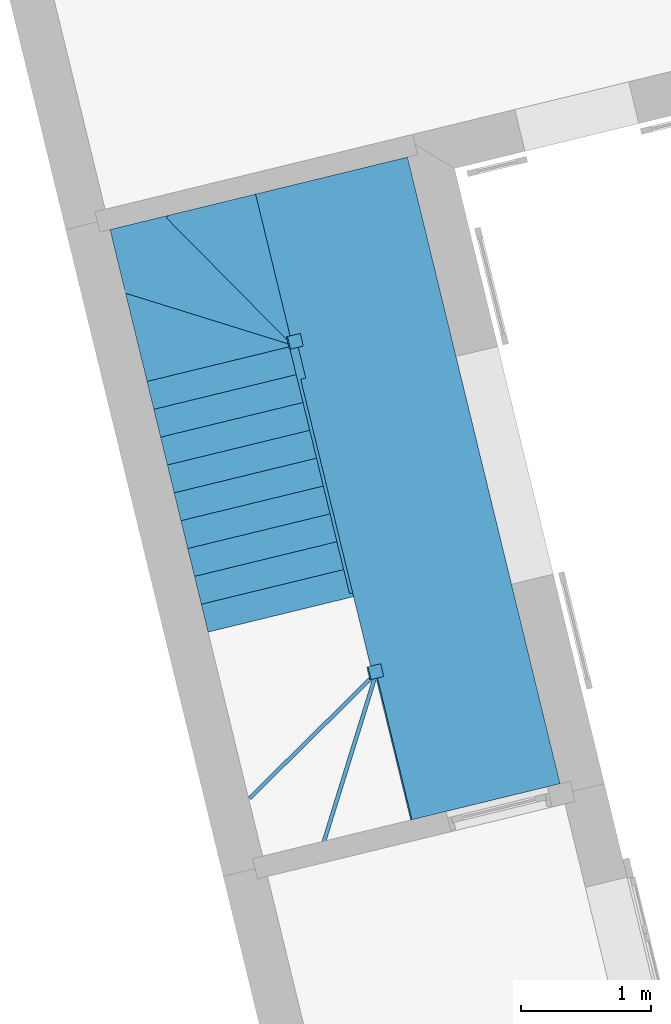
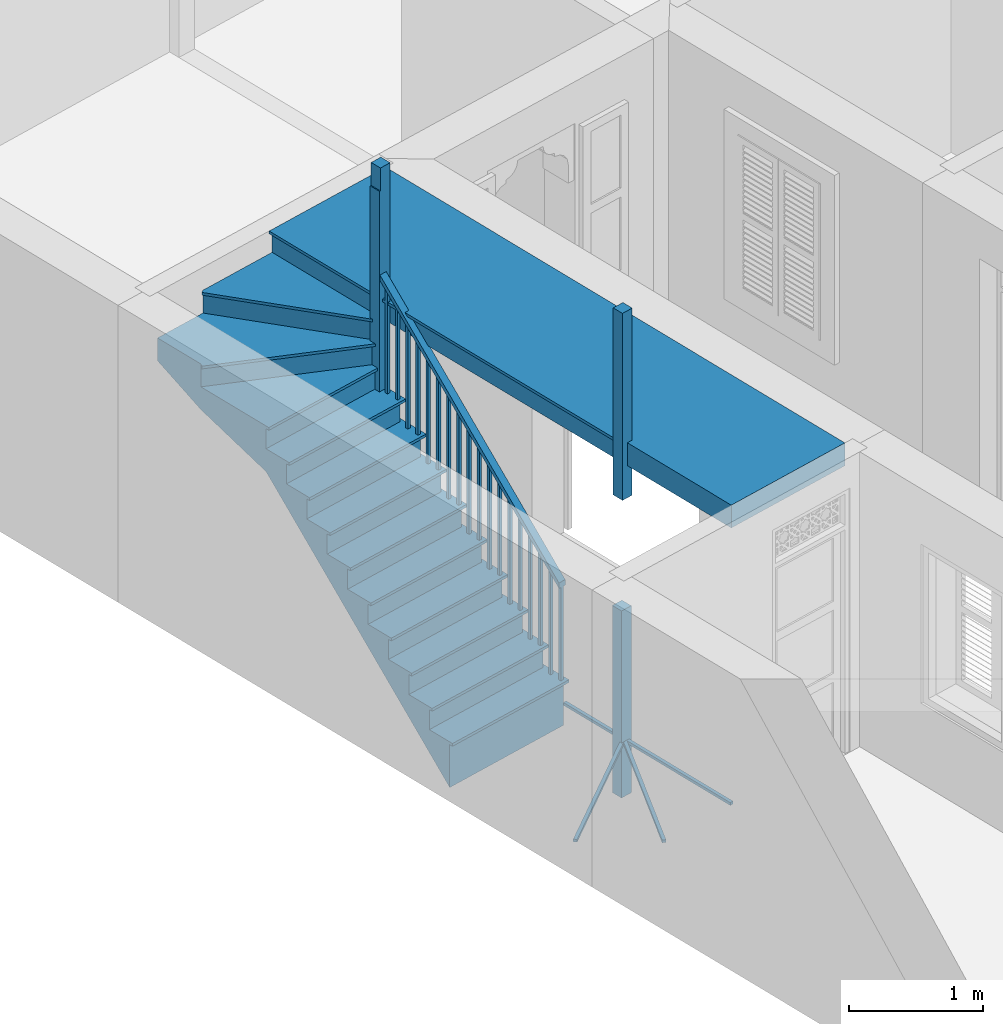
# One storey, part 15 of 15: 1 stair.
"""IFC4 building model written with IfcOpenShell, lengths in metres."""

from ifc_helpers import new_model, si_unit, origin, origin_with_axes, place, context, subcontext, project, spatial, faceted_brep, element, save


model = new_model("IFC4")

# Units and contexts
model_context = context("Model", 3, world=origin_with_axes())
body_context = subcontext(model_context, "Body", "Model", "MODEL_VIEW")
ifc_project = project(units=[si_unit("PLANEANGLEUNIT", "RADIAN"), si_unit("MASSUNIT", "GRAM", prefix="KILO"), si_unit("FORCEUNIT", "NEWTON", prefix="KILO"), si_unit("LENGTHUNIT", "METRE"), si_unit("AREAUNIT", "SQUARE_METRE"), si_unit("VOLUMEUNIT", "CUBIC_METRE")], contexts=[model_context, model_context])

# Site, building, storey
site_placement = place(None, origin_with_axes())
site = spatial("IfcSite", under=ifc_project, at=site_placement, Name="Site plot-4", CompositionType="ELEMENT")
building_placement = place(None, origin_with_axes())
building = spatial("IfcBuilding", under=site, at=building_placement, Name="Building plot-4", CompositionType="ELEMENT")
storey_placement = place(None, origin_with_axes())
storey = spatial("IfcBuildingStorey", under=building, at=storey_placement, Name="plot-4 0", CompositionType="ELEMENT", Elevation=0.0)

# Stair
stair_placement = place(None, origin())
element("IfcStair", 1, at=stair_placement, inside=storey, Name="Stair", PredefinedType="NOTDEFINED", context=body_context, shape_type="Brep", body=[
    faceted_brep([(20.045713, 13.514813, 2.492308), (19.768881, 14.651591, 2.492308), (19.759147, 14.649221, 2.492308), (20.035979, 13.512443, 2.492308), (20.035979, 13.512443, 2.284615), (19.759147, 14.649221, 2.284615), (19.768881, 14.651591, 2.284615), (20.045713, 13.514813, 2.284615)], [[[0, 1, 2, 3]], [[4, 5, 6, 7]], [[7, 6, 1, 0]], [[6, 5, 2, 1]], [[5, 4, 3, 2]], [[4, 7, 0, 3]]]),
    faceted_brep([(20.043077, 13.483295, 2.467308), (20.043077, 13.483295, 2.492308), (20.035979, 13.512443, 2.467308), (20.052811, 13.485665, 2.492308), (20.052811, 13.485665, 2.467308), (20.045713, 13.514813, 2.467308), (20.035979, 13.512443, 2.492308), (20.045713, 13.514813, 2.492308)], [[[0, 1, 2]], [[3, 4, 5]], [[2, 1, 6]], [[3, 5, 7]], [[6, 1, 3, 7]], [[2, 6, 7, 5]], [[0, 2, 5, 4]], [[1, 0, 4, 3]]]),
    faceted_brep([(19.999229, 13.452032, 3.692308), (20.096389, 13.475693, 3.692308), (20.072729, 13.572853, 3.692308), (19.975568, 13.549193, 3.692308), (19.975568, 13.549193, 2.492308), (20.072729, 13.572853, 2.492308), (20.096389, 13.475693, 2.492308), (19.999229, 13.452032, 2.492308)], [[[0, 1, 2, 3]], [[4, 5, 6, 7]], [[7, 6, 1, 0]], [[6, 5, 2, 1]], [[5, 4, 3, 2]], [[4, 7, 0, 3]]]),
    faceted_brep([(19.759147, 14.649221, 2.492308), (19.07708, 14.483122, 2.492308), (20.035979, 13.512443, 2.492308), (20.035979, 13.512443, 2.076923), (19.07708, 14.483122, 2.076923), (19.759147, 14.649221, 2.284615)], [[[0, 1, 2]], [[3, 4, 5]], [[0, 5, 4, 1]], [[4, 3, 2, 1]], [[2, 3, 5, 0]]]),
    faceted_brep([(19.055738, 14.462038, 2.467308), (19.055738, 14.462038, 2.492308), (19.07708, 14.483122, 2.467308), (20.014636, 13.491359, 2.492308), (20.014636, 13.491359, 2.467308), (20.035979, 13.512443, 2.467308), (19.07708, 14.483122, 2.492308), (20.035979, 13.512443, 2.492308)], [[[0, 1, 2]], [[3, 4, 5]], [[2, 1, 6]], [[3, 5, 7]], [[6, 1, 3, 7]], [[2, 6, 7, 5]], [[0, 2, 5, 4]], [[1, 0, 4, 3]]]),
    faceted_brep([(19.07708, 14.483122, 2.284615), (18.622369, 14.372389, 2.284615), (18.733102, 13.917678, 2.284615), (20.035979, 13.512443, 2.284615), (20.035979, 13.512443, 1.869231), (18.733102, 13.917678, 1.869231), (18.622369, 14.372389, 2.076923), (19.07708, 14.483122, 2.076923)], [[[0, 1, 2, 3]], [[4, 5, 6, 7]], [[7, 6, 1, 0]], [[1, 6, 5, 2]], [[5, 4, 3, 2]], [[3, 4, 7, 0]]]),
    faceted_brep([(18.733102, 13.917678, 2.259615), (18.724192, 13.889031, 2.259615), (18.733102, 13.917678, 2.284615), (20.027069, 13.483796, 2.259615), (20.035979, 13.512443, 2.259615), (20.035979, 13.512443, 2.284615), (18.724192, 13.889031, 2.284615), (20.027069, 13.483796, 2.284615)], [[[0, 1, 2]], [[3, 4, 5]], [[1, 6, 2]], [[7, 3, 5]], [[2, 6, 7, 5]], [[0, 2, 5, 4]], [[1, 0, 4, 3]], [[6, 1, 3, 7]]]),
    faceted_brep([(18.733102, 13.917678, 2.076923), (18.899201, 13.235611, 2.076923), (20.035979, 13.512443, 2.076923), (20.035979, 13.512443, 1.661538), (18.899201, 13.235611, 1.661538), (18.733102, 13.917678, 1.869231)], [[[0, 1, 2]], [[3, 4, 5]], [[0, 5, 4, 1]], [[4, 3, 2, 1]], [[2, 3, 5, 0]]]),
    faceted_brep([(18.899201, 13.235611, 2.051923), (18.906299, 13.206463, 2.051923), (18.899201, 13.235611, 2.076923), (20.043077, 13.483295, 2.051923), (20.035979, 13.512443, 2.051923), (20.035979, 13.512443, 2.076923), (18.906299, 13.206463, 2.076923), (20.043077, 13.483295, 2.076923)], [[[0, 1, 2]], [[3, 4, 5]], [[1, 6, 2]], [[7, 3, 5]], [[2, 6, 7, 5]], [[0, 2, 5, 4]], [[1, 0, 4, 3]], [[6, 1, 3, 7]]]),
    faceted_brep([(19.999229, 13.452032, 2.492308), (20.096389, 13.475693, 2.492308), (20.072729, 13.572853, 2.492308), (19.975568, 13.549193, 2.492308), (19.975568, 13.549193, 1.576923), (20.072729, 13.572853, 1.576923), (20.096389, 13.475693, 1.576923), (19.999229, 13.452032, 1.576923)], [[[0, 1, 2, 3]], [[4, 5, 6, 7]], [[7, 6, 1, 0]], [[6, 5, 2, 1]], [[5, 4, 3, 2]], [[4, 7, 0, 3]]]),
    faceted_brep([(20.035979, 13.512443, 1.869231), (18.899201, 13.235611, 1.869231), (18.951255, 13.021858, 1.869231), (20.088033, 13.29869, 1.869231), (20.088033, 13.29869, 1.453846), (18.951255, 13.021858, 1.453846), (18.899201, 13.235611, 1.661538), (20.035979, 13.512443, 1.661538)], [[[0, 1, 2, 3]], [[4, 5, 6, 7]], [[7, 6, 1, 0]], [[1, 6, 5, 2]], [[5, 4, 3, 2]], [[3, 4, 7, 0]]]),
    faceted_brep([(18.951255, 13.021858, 1.844231), (18.958353, 12.99271, 1.844231), (18.951255, 13.021858, 1.869231), (18.892103, 13.264759, 1.844231), (18.899201, 13.235611, 1.844231), (18.899201, 13.235611, 1.869231), (18.958353, 12.99271, 1.869231), (18.892103, 13.264759, 1.869231), (20.124279, 13.27664, 1.869231), (20.088033, 13.29869, 1.869231), (20.088033, 13.29869, 1.844231), (20.124279, 13.27664, 1.844231), (20.058029, 13.548689, 1.869231), (20.035979, 13.512443, 1.869231), (20.035979, 13.512443, 1.844231), (20.058029, 13.548689, 1.844231)], [[[0, 1, 2]], [[3, 4, 5]], [[1, 6, 2]], [[7, 3, 5]], [[2, 6, 8, 9]], [[0, 2, 9, 10]], [[1, 0, 10, 11]], [[6, 1, 11, 8]], [[9, 8, 12, 13]], [[10, 9, 13, 14]], [[11, 10, 14, 15]], [[8, 11, 15, 12]], [[13, 12, 7, 5]], [[14, 13, 5, 4]], [[15, 14, 4, 3]], [[12, 15, 3, 7]]]),
    faceted_brep([(20.088033, 13.29869, 2.769231), (20.082117, 13.32298, 2.769231), (20.057827, 13.317065, 2.769231), (20.063742, 13.292774, 2.769231), (20.063742, 13.292774, 1.869231), (20.057827, 13.317065, 1.869231), (20.082117, 13.32298, 1.869231), (20.088033, 13.29869, 1.869231)], [[[0, 1, 2, 3]], [[4, 5, 6, 7]], [[7, 6, 1, 0]], [[6, 5, 2, 1]], [[5, 4, 3, 2]], [[4, 7, 0, 3]]]),
    faceted_brep([(20.062006, 13.405566, 2.873077), (20.05609, 13.429856, 2.873077), (20.0318, 13.423941, 2.873077), (20.037716, 13.399651, 2.873077), (20.037716, 13.399651, 1.869231), (20.0318, 13.423941, 1.869231), (20.05609, 13.429856, 1.869231), (20.062006, 13.405566, 1.869231)], [[[0, 1, 2, 3]], [[4, 5, 6, 7]], [[7, 6, 1, 0]], [[6, 5, 2, 1]], [[5, 4, 3, 2]], [[4, 7, 0, 3]]]),
    faceted_brep([(20.04431, 13.288042, 2.719231), (20.107465, 13.303422, 2.719231), (20.107465, 13.303422, 2.769231), (20.04431, 13.288042, 2.769231), (20.055411, 13.517175, 2.926923), (19.992257, 13.501795, 2.926923), (19.992257, 13.501795, 2.976923), (20.055411, 13.517175, 2.976923)], [[[0, 1, 2, 3]], [[4, 5, 6, 7]], [[0, 5, 4, 1]], [[3, 2, 7, 6]], [[0, 3, 6, 5]], [[2, 1, 4, 7]]]),
    faceted_brep([(20.088033, 13.29869, 1.661538), (18.951255, 13.021858, 1.661538), (19.003308, 12.808105, 1.661538), (20.140086, 13.084936, 1.661538), (20.140086, 13.084936, 1.246154), (19.003308, 12.808105, 1.246154), (18.951255, 13.021858, 1.453846), (20.088033, 13.29869, 1.453846)], [[[0, 1, 2, 3]], [[4, 5, 6, 7]], [[7, 6, 1, 0]], [[1, 6, 5, 2]], [[5, 4, 3, 2]], [[3, 4, 7, 0]]]),
    faceted_brep([(19.003308, 12.808105, 1.636538), (19.010407, 12.778957, 1.636538), (19.003308, 12.808105, 1.661538), (18.944156, 13.051006, 1.636538), (18.951255, 13.021858, 1.636538), (18.951255, 13.021858, 1.661538), (19.010407, 12.778957, 1.661538), (18.944156, 13.051006, 1.661538), (20.176333, 13.062887, 1.661538), (20.140086, 13.084936, 1.661538), (20.140086, 13.084936, 1.636538), (20.176333, 13.062887, 1.636538), (20.110083, 13.334936, 1.661538), (20.088033, 13.29869, 1.661538), (20.088033, 13.29869, 1.636538), (20.110083, 13.334936, 1.636538)], [[[0, 1, 2]], [[3, 4, 5]], [[1, 6, 2]], [[7, 3, 5]], [[2, 6, 8, 9]], [[0, 2, 9, 10]], [[1, 0, 10, 11]], [[6, 1, 11, 8]], [[9, 8, 12, 13]], [[10, 9, 13, 14]], [[11, 10, 14, 15]], [[8, 11, 15, 12]], [[13, 12, 7, 5]], [[14, 13, 5, 4]], [[15, 14, 4, 3]], [[12, 15, 3, 7]]]),
    faceted_brep([(20.140086, 13.084936, 2.561538), (20.134171, 13.109227, 2.561538), (20.109881, 13.103311, 2.561538), (20.115796, 13.079021, 2.561538), (20.115796, 13.079021, 1.661538), (20.109881, 13.103311, 1.661538), (20.134171, 13.109227, 1.661538), (20.140086, 13.084936, 1.661538)], [[[0, 1, 2, 3]], [[4, 5, 6, 7]], [[7, 6, 1, 0]], [[6, 5, 2, 1]], [[5, 4, 3, 2]], [[4, 7, 0, 3]]]),
    faceted_brep([(20.11406, 13.191813, 2.665385), (20.108144, 13.216103, 2.665385), (20.083854, 13.210188, 2.665385), (20.089769, 13.185898, 2.665385), (20.089769, 13.185898, 1.661538), (20.083854, 13.210188, 1.661538), (20.108144, 13.216103, 1.661538), (20.11406, 13.191813, 1.661538)], [[[0, 1, 2, 3]], [[4, 5, 6, 7]], [[7, 6, 1, 0]], [[6, 5, 2, 1]], [[5, 4, 3, 2]], [[4, 7, 0, 3]]]),
    faceted_brep([(20.096364, 13.074289, 2.511538), (20.159519, 13.089669, 2.511538), (20.159519, 13.089669, 2.561538), (20.096364, 13.074289, 2.561538), (20.107465, 13.303422, 2.719231), (20.04431, 13.288042, 2.719231), (20.04431, 13.288042, 2.769231), (20.107465, 13.303422, 2.769231)], [[[0, 1, 2, 3]], [[4, 5, 6, 7]], [[0, 5, 4, 1]], [[3, 2, 7, 6]], [[0, 3, 6, 5]], [[2, 1, 4, 7]]]),
    faceted_brep([(20.140086, 13.084936, 1.453846), (19.003308, 12.808105, 1.453846), (19.055362, 12.594352, 1.453846), (20.19214, 12.871183, 1.453846), (20.19214, 12.871183, 1.038462), (19.055362, 12.594352, 1.038462), (19.003308, 12.808105, 1.246154), (20.140086, 13.084936, 1.246154)], [[[0, 1, 2, 3]], [[4, 5, 6, 7]], [[7, 6, 1, 0]], [[1, 6, 5, 2]], [[5, 4, 3, 2]], [[3, 4, 7, 0]]]),
    faceted_brep([(19.055362, 12.594352, 1.428846), (19.062461, 12.565203, 1.428846), (19.055362, 12.594352, 1.453846), (18.99621, 12.837253, 1.428846), (19.003308, 12.808105, 1.428846), (19.003308, 12.808105, 1.453846), (19.062461, 12.565203, 1.453846), (18.99621, 12.837253, 1.453846), (20.228387, 12.849133, 1.453846), (20.19214, 12.871183, 1.453846), (20.19214, 12.871183, 1.428846), (20.228387, 12.849133, 1.428846), (20.162136, 13.121183, 1.453846), (20.140086, 13.084936, 1.453846), (20.140086, 13.084936, 1.428846), (20.162136, 13.121183, 1.428846)], [[[0, 1, 2]], [[3, 4, 5]], [[1, 6, 2]], [[7, 3, 5]], [[2, 6, 8, 9]], [[0, 2, 9, 10]], [[1, 0, 10, 11]], [[6, 1, 11, 8]], [[9, 8, 12, 13]], [[10, 9, 13, 14]], [[11, 10, 14, 15]], [[8, 11, 15, 12]], [[13, 12, 7, 5]], [[14, 13, 5, 4]], [[15, 14, 4, 3]], [[12, 15, 3, 7]]]),
    faceted_brep([(20.19214, 12.871183, 2.353846), (20.186225, 12.895473, 2.353846), (20.161935, 12.889558, 2.353846), (20.16785, 12.865268, 2.353846), (20.16785, 12.865268, 1.453846), (20.161935, 12.889558, 1.453846), (20.186225, 12.895473, 1.453846), (20.19214, 12.871183, 1.453846)], [[[0, 1, 2, 3]], [[4, 5, 6, 7]], [[7, 6, 1, 0]], [[6, 5, 2, 1]], [[5, 4, 3, 2]], [[4, 7, 0, 3]]]),
    faceted_brep([(20.166113, 12.97806, 2.457692), (20.160198, 13.00235, 2.457692), (20.135908, 12.996435, 2.457692), (20.141823, 12.972145, 2.457692), (20.141823, 12.972145, 1.453846), (20.135908, 12.996435, 1.453846), (20.160198, 13.00235, 1.453846), (20.166113, 12.97806, 1.453846)], [[[0, 1, 2, 3]], [[4, 5, 6, 7]], [[7, 6, 1, 0]], [[6, 5, 2, 1]], [[5, 4, 3, 2]], [[4, 7, 0, 3]]]),
    faceted_brep([(20.148418, 12.860536, 2.303846), (20.211572, 12.875916, 2.303846), (20.211572, 12.875916, 2.353846), (20.148418, 12.860536, 2.353846), (20.159519, 13.089669, 2.511538), (20.096364, 13.074289, 2.511538), (20.096364, 13.074289, 2.561538), (20.159519, 13.089669, 2.561538)], [[[0, 1, 2, 3]], [[4, 5, 6, 7]], [[0, 5, 4, 1]], [[3, 2, 7, 6]], [[0, 3, 6, 5]], [[2, 1, 4, 7]]]),
    faceted_brep([(20.19214, 12.871183, 1.246154), (19.055362, 12.594352, 1.246154), (19.107416, 12.380598, 1.246154), (20.244194, 12.65743, 1.246154), (20.244194, 12.65743, 0.830769), (19.107416, 12.380598, 0.830769), (19.055362, 12.594352, 1.038462), (20.19214, 12.871183, 1.038462)], [[[0, 1, 2, 3]], [[4, 5, 6, 7]], [[7, 6, 1, 0]], [[1, 6, 5, 2]], [[5, 4, 3, 2]], [[3, 4, 7, 0]]]),
    faceted_brep([(19.107416, 12.380598, 1.221154), (19.114514, 12.35145, 1.221154), (19.107416, 12.380598, 1.246154), (19.048264, 12.6235, 1.221154), (19.055362, 12.594352, 1.221154), (19.055362, 12.594352, 1.246154), (19.114514, 12.35145, 1.246154), (19.048264, 12.6235, 1.246154), (20.280441, 12.63538, 1.246154), (20.244194, 12.65743, 1.246154), (20.244194, 12.65743, 1.221154), (20.280441, 12.63538, 1.221154), (20.21419, 12.90743, 1.246154), (20.19214, 12.871183, 1.246154), (20.19214, 12.871183, 1.221154), (20.21419, 12.90743, 1.221154)], [[[0, 1, 2]], [[3, 4, 5]], [[1, 6, 2]], [[7, 3, 5]], [[2, 6, 8, 9]], [[0, 2, 9, 10]], [[1, 0, 10, 11]], [[6, 1, 11, 8]], [[9, 8, 12, 13]], [[10, 9, 13, 14]], [[11, 10, 14, 15]], [[8, 11, 15, 12]], [[13, 12, 7, 5]], [[14, 13, 5, 4]], [[15, 14, 4, 3]], [[12, 15, 3, 7]]]),
    faceted_brep([(20.244194, 12.65743, 2.146154), (20.238279, 12.68172, 2.146154), (20.213989, 12.675805, 2.146154), (20.219904, 12.651515, 2.146154), (20.219904, 12.651515, 1.246154), (20.213989, 12.675805, 1.246154), (20.238279, 12.68172, 1.246154), (20.244194, 12.65743, 1.246154)], [[[0, 1, 2, 3]], [[4, 5, 6, 7]], [[7, 6, 1, 0]], [[6, 5, 2, 1]], [[5, 4, 3, 2]], [[4, 7, 0, 3]]]),
    faceted_brep([(20.218167, 12.764307, 2.25), (20.212252, 12.788597, 2.25), (20.187962, 12.782682, 2.25), (20.193877, 12.758392, 2.25), (20.193877, 12.758392, 1.246154), (20.187962, 12.782682, 1.246154), (20.212252, 12.788597, 1.246154), (20.218167, 12.764307, 1.246154)], [[[0, 1, 2, 3]], [[4, 5, 6, 7]], [[7, 6, 1, 0]], [[6, 5, 2, 1]], [[5, 4, 3, 2]], [[4, 7, 0, 3]]]),
    faceted_brep([(20.200472, 12.646783, 2.096154), (20.263626, 12.662162, 2.096154), (20.263626, 12.662162, 2.146154), (20.200472, 12.646783, 2.146154), (20.211572, 12.875916, 2.303846), (20.148418, 12.860536, 2.303846), (20.148418, 12.860536, 2.353846), (20.211572, 12.875916, 2.353846)], [[[0, 1, 2, 3]], [[4, 5, 6, 7]], [[0, 5, 4, 1]], [[3, 2, 7, 6]], [[0, 3, 6, 5]], [[2, 1, 4, 7]]]),
    faceted_brep([(20.244194, 12.65743, 1.038462), (19.107416, 12.380598, 1.038462), (19.15947, 12.166845, 1.038462), (20.296248, 12.443677, 1.038462), (20.296248, 12.443677, 0.623077), (19.15947, 12.166845, 0.623077), (19.107416, 12.380598, 0.830769), (20.244194, 12.65743, 0.830769)], [[[0, 1, 2, 3]], [[4, 5, 6, 7]], [[7, 6, 1, 0]], [[1, 6, 5, 2]], [[5, 4, 3, 2]], [[3, 4, 7, 0]]]),
    faceted_brep([(19.166568, 12.137697, 1.013462), (19.166568, 12.137697, 1.038462), (19.15947, 12.166845, 1.013462), (19.100318, 12.409747, 1.038462), (19.100318, 12.409747, 1.013462), (19.107416, 12.380598, 1.013462), (19.15947, 12.166845, 1.038462), (19.107416, 12.380598, 1.038462), (20.332494, 12.421627, 1.038462), (20.296248, 12.443677, 1.038462), (20.296248, 12.443677, 1.013462), (20.332494, 12.421627, 1.013462), (20.266244, 12.693677, 1.038462), (20.244194, 12.65743, 1.038462), (20.244194, 12.65743, 1.013462), (20.266244, 12.693677, 1.013462)], [[[0, 1, 2]], [[3, 4, 5]], [[2, 1, 6]], [[3, 5, 7]], [[6, 1, 8, 9]], [[2, 6, 9, 10]], [[0, 2, 10, 11]], [[1, 0, 11, 8]], [[9, 8, 12, 13]], [[10, 9, 13, 14]], [[11, 10, 14, 15]], [[8, 11, 15, 12]], [[13, 12, 3, 7]], [[14, 13, 7, 5]], [[15, 14, 5, 4]], [[12, 15, 4, 3]]]),
    faceted_brep([(20.296248, 12.443677, 1.938462), (20.290333, 12.467967, 1.938462), (20.266043, 12.462052, 1.938462), (20.271958, 12.437762, 1.938462), (20.271958, 12.437762, 1.038462), (20.266043, 12.462052, 1.038462), (20.290333, 12.467967, 1.038462), (20.296248, 12.443677, 1.038462)], [[[0, 1, 2, 3]], [[4, 5, 6, 7]], [[7, 6, 1, 0]], [[6, 5, 2, 1]], [[5, 4, 3, 2]], [[4, 7, 0, 3]]]),
    faceted_brep([(20.270221, 12.550554, 2.042308), (20.264306, 12.574844, 2.042308), (20.240016, 12.568929, 2.042308), (20.245931, 12.544638, 2.042308), (20.245931, 12.544638, 1.038462), (20.240016, 12.568929, 1.038462), (20.264306, 12.574844, 1.038462), (20.270221, 12.550554, 1.038462)], [[[0, 1, 2, 3]], [[4, 5, 6, 7]], [[7, 6, 1, 0]], [[6, 5, 2, 1]], [[5, 4, 3, 2]], [[4, 7, 0, 3]]]),
    faceted_brep([(20.252526, 12.43303, 1.888462), (20.31568, 12.448409, 1.888462), (20.31568, 12.448409, 1.938462), (20.252526, 12.43303, 1.938462), (20.263626, 12.662162, 2.096154), (20.200472, 12.646783, 2.096154), (20.200472, 12.646783, 2.146154), (20.263626, 12.662162, 2.146154)], [[[0, 1, 2, 3]], [[4, 5, 6, 7]], [[0, 5, 4, 1]], [[3, 2, 7, 6]], [[0, 3, 6, 5]], [[2, 1, 4, 7]]]),
    faceted_brep([(20.296248, 12.443677, 0.830769), (19.15947, 12.166845, 0.830769), (19.211524, 11.953092, 0.830769), (20.348302, 12.229924, 0.830769), (20.348302, 12.229924, 0.415385), (19.211524, 11.953092, 0.415385), (19.15947, 12.166845, 0.623077), (20.296248, 12.443677, 0.623077)], [[[0, 1, 2, 3]], [[4, 5, 6, 7]], [[7, 6, 1, 0]], [[1, 6, 5, 2]], [[5, 4, 3, 2]], [[3, 4, 7, 0]]]),
    faceted_brep([(19.218622, 11.923944, 0.805769), (19.218622, 11.923944, 0.830769), (19.211524, 11.953092, 0.805769), (19.152372, 12.195993, 0.830769), (19.152372, 12.195993, 0.805769), (19.15947, 12.166845, 0.805769), (19.211524, 11.953092, 0.830769), (19.15947, 12.166845, 0.830769), (20.384548, 12.207874, 0.830769), (20.348302, 12.229924, 0.830769), (20.348302, 12.229924, 0.805769), (20.384548, 12.207874, 0.805769), (20.318298, 12.479924, 0.830769), (20.296248, 12.443677, 0.830769), (20.296248, 12.443677, 0.805769), (20.318298, 12.479924, 0.805769)], [[[0, 1, 2]], [[3, 4, 5]], [[2, 1, 6]], [[3, 5, 7]], [[6, 1, 8, 9]], [[2, 6, 9, 10]], [[0, 2, 10, 11]], [[1, 0, 11, 8]], [[9, 8, 12, 13]], [[10, 9, 13, 14]], [[11, 10, 14, 15]], [[8, 11, 15, 12]], [[13, 12, 3, 7]], [[14, 13, 7, 5]], [[15, 14, 5, 4]], [[12, 15, 4, 3]]]),
    faceted_brep([(20.348302, 12.229924, 1.730769), (20.342387, 12.254214, 1.730769), (20.318096, 12.248299, 1.730769), (20.324012, 12.224009, 1.730769), (20.324012, 12.224009, 0.830769), (20.318096, 12.248299, 0.830769), (20.342387, 12.254214, 0.830769), (20.348302, 12.229924, 0.830769)], [[[0, 1, 2, 3]], [[4, 5, 6, 7]], [[7, 6, 1, 0]], [[6, 5, 2, 1]], [[5, 4, 3, 2]], [[4, 7, 0, 3]]]),
    faceted_brep([(20.322275, 12.336801, 1.834615), (20.31636, 12.361091, 1.834615), (20.29207, 12.355175, 1.834615), (20.297985, 12.330885, 1.834615), (20.297985, 12.330885, 0.830769), (20.29207, 12.355175, 0.830769), (20.31636, 12.361091, 0.830769), (20.322275, 12.336801, 0.830769)], [[[0, 1, 2, 3]], [[4, 5, 6, 7]], [[7, 6, 1, 0]], [[6, 5, 2, 1]], [[5, 4, 3, 2]], [[4, 7, 0, 3]]]),
    faceted_brep([(20.30458, 12.219277, 1.680769), (20.367734, 12.234656, 1.680769), (20.367734, 12.234656, 1.730769), (20.30458, 12.219277, 1.730769), (20.31568, 12.448409, 1.888462), (20.252526, 12.43303, 1.888462), (20.252526, 12.43303, 1.938462), (20.31568, 12.448409, 1.938462)], [[[0, 1, 2, 3]], [[4, 5, 6, 7]], [[0, 5, 4, 1]], [[3, 2, 7, 6]], [[0, 3, 6, 5]], [[2, 1, 4, 7]]]),
    faceted_brep([(20.348302, 12.229924, 0.623077), (19.211524, 11.953092, 0.623077), (19.263578, 11.739339, 0.623077), (20.400356, 12.016171, 0.623077), (20.400356, 12.016171, 0.207692), (19.263578, 11.739339, 0.207692), (19.211524, 11.953092, 0.415385), (20.348302, 12.229924, 0.415385)], [[[0, 1, 2, 3]], [[4, 5, 6, 7]], [[7, 6, 1, 0]], [[1, 6, 5, 2]], [[5, 4, 3, 2]], [[3, 4, 7, 0]]]),
    faceted_brep([(19.270676, 11.710191, 0.598077), (19.270676, 11.710191, 0.623077), (19.263578, 11.739339, 0.598077), (19.204426, 11.98224, 0.623077), (19.204426, 11.98224, 0.598077), (19.211524, 11.953092, 0.598077), (19.263578, 11.739339, 0.623077), (19.211524, 11.953092, 0.623077), (20.436602, 11.994121, 0.623077), (20.400356, 12.016171, 0.623077), (20.400356, 12.016171, 0.598077), (20.436602, 11.994121, 0.598077), (20.370352, 12.26617, 0.623077), (20.348302, 12.229924, 0.623077), (20.348302, 12.229924, 0.598077), (20.370352, 12.26617, 0.598077)], [[[0, 1, 2]], [[3, 4, 5]], [[2, 1, 6]], [[3, 5, 7]], [[6, 1, 8, 9]], [[2, 6, 9, 10]], [[0, 2, 10, 11]], [[1, 0, 11, 8]], [[9, 8, 12, 13]], [[10, 9, 13, 14]], [[11, 10, 14, 15]], [[8, 11, 15, 12]], [[13, 12, 3, 7]], [[14, 13, 7, 5]], [[15, 14, 5, 4]], [[12, 15, 4, 3]]]),
    faceted_brep([(20.400356, 12.016171, 1.523077), (20.39444, 12.040461, 1.523077), (20.37015, 12.034546, 1.523077), (20.376066, 12.010256, 1.523077), (20.376066, 12.010256, 0.623077), (20.37015, 12.034546, 0.623077), (20.39444, 12.040461, 0.623077), (20.400356, 12.016171, 0.623077)], [[[0, 1, 2, 3]], [[4, 5, 6, 7]], [[7, 6, 1, 0]], [[6, 5, 2, 1]], [[5, 4, 3, 2]], [[4, 7, 0, 3]]]),
    faceted_brep([(20.374329, 12.123047, 1.626923), (20.368414, 12.147338, 1.626923), (20.344123, 12.141422, 1.626923), (20.350039, 12.117132, 1.626923), (20.350039, 12.117132, 0.623077), (20.344123, 12.141422, 0.623077), (20.368414, 12.147338, 0.623077), (20.374329, 12.123047, 0.623077)], [[[0, 1, 2, 3]], [[4, 5, 6, 7]], [[7, 6, 1, 0]], [[6, 5, 2, 1]], [[5, 4, 3, 2]], [[4, 7, 0, 3]]]),
    faceted_brep([(20.356633, 12.005523, 1.473077), (20.419788, 12.020903, 1.473077), (20.419788, 12.020903, 1.523077), (20.356633, 12.005523, 1.523077), (20.367734, 12.234656, 1.680769), (20.30458, 12.219277, 1.680769), (20.30458, 12.219277, 1.730769), (20.367734, 12.234656, 1.730769)], [[[0, 1, 2, 3]], [[4, 5, 6, 7]], [[0, 5, 4, 1]], [[3, 2, 7, 6]], [[0, 3, 6, 5]], [[2, 1, 4, 7]]]),
    faceted_brep([(20.400356, 12.016171, 0.415385), (19.263578, 11.739339, 0.415385), (19.315631, 11.525586, 0.415385), (20.452409, 11.802418, 0.415385), (20.452409, 11.802418, 0.0), (19.315631, 11.525586, 0.0), (19.263578, 11.739339, 0.207692), (20.400356, 12.016171, 0.207692)], [[[0, 1, 2, 3]], [[4, 5, 6, 7]], [[7, 6, 1, 0]], [[1, 6, 5, 2]], [[5, 4, 3, 2]], [[3, 4, 7, 0]]]),
    faceted_brep([(19.32273, 11.496438, 0.390385), (19.32273, 11.496438, 0.415385), (19.315631, 11.525586, 0.390385), (19.256479, 11.768487, 0.415385), (19.256479, 11.768487, 0.390385), (19.263578, 11.739339, 0.390385), (19.315631, 11.525586, 0.415385), (19.263578, 11.739339, 0.415385), (20.488656, 11.780368, 0.415385), (20.452409, 11.802418, 0.415385), (20.452409, 11.802418, 0.390385), (20.488656, 11.780368, 0.390385), (20.422406, 12.052417, 0.415385), (20.400356, 12.016171, 0.415385), (20.400356, 12.016171, 0.390385), (20.422406, 12.052417, 0.390385)], [[[0, 1, 2]], [[3, 4, 5]], [[2, 1, 6]], [[3, 5, 7]], [[6, 1, 8, 9]], [[2, 6, 9, 10]], [[0, 2, 10, 11]], [[1, 0, 11, 8]], [[9, 8, 12, 13]], [[10, 9, 13, 14]], [[11, 10, 14, 15]], [[8, 11, 15, 12]], [[13, 12, 3, 7]], [[14, 13, 7, 5]], [[15, 14, 5, 4]], [[12, 15, 4, 3]]]),
    faceted_brep([(20.452409, 11.802418, 1.315385), (20.446494, 11.826708, 1.315385), (20.422204, 11.820793, 1.315385), (20.428119, 11.796503, 1.315385), (20.428119, 11.796503, 0.415385), (20.422204, 11.820793, 0.415385), (20.446494, 11.826708, 0.415385), (20.452409, 11.802418, 0.415385)], [[[0, 1, 2, 3]], [[4, 5, 6, 7]], [[7, 6, 1, 0]], [[6, 5, 2, 1]], [[5, 4, 3, 2]], [[4, 7, 0, 3]]]),
    faceted_brep([(20.426383, 11.909294, 1.419231), (20.420467, 11.933584, 1.419231), (20.396177, 11.927669, 1.419231), (20.402092, 11.903379, 1.419231), (20.402092, 11.903379, 0.415385), (20.396177, 11.927669, 0.415385), (20.420467, 11.933584, 0.415385), (20.426383, 11.909294, 0.415385)], [[[0, 1, 2, 3]], [[4, 5, 6, 7]], [[7, 6, 1, 0]], [[6, 5, 2, 1]], [[5, 4, 3, 2]], [[4, 7, 0, 3]]]),
    faceted_brep([(20.408687, 11.79177, 1.265385), (20.471842, 11.80715, 1.265385), (20.471842, 11.80715, 1.315385), (20.408687, 11.79177, 1.315385), (20.419788, 12.020903, 1.473077), (20.356633, 12.005523, 1.473077), (20.356633, 12.005523, 1.523077), (20.419788, 12.020903, 1.523077)], [[[0, 1, 2, 3]], [[4, 5, 6, 7]], [[0, 5, 4, 1]], [[3, 2, 7, 6]], [[0, 3, 6, 5]], [[2, 1, 4, 7]]]),
    faceted_brep([(20.452409, 11.802418, 0.207692), (19.315631, 11.525586, 0.207692), (19.367685, 11.311833, 0.207692), (20.504463, 11.588665, 0.207692), (20.504463, 11.588665, -0.207692), (19.367685, 11.311833, -0.207692), (19.315631, 11.525586, 0.0), (20.452409, 11.802418, 0.0)], [[[0, 1, 2, 3]], [[4, 5, 6, 7]], [[7, 6, 1, 0]], [[1, 6, 5, 2]], [[5, 4, 3, 2]], [[3, 4, 7, 0]]]),
    faceted_brep([(19.367685, 11.311833, 0.182692), (19.374784, 11.282685, 0.182692), (19.367685, 11.311833, 0.207692), (19.308533, 11.554734, 0.182692), (19.315631, 11.525586, 0.182692), (19.315631, 11.525586, 0.207692), (19.374784, 11.282685, 0.207692), (19.308533, 11.554734, 0.207692), (20.54071, 11.566615, 0.207692), (20.504463, 11.588665, 0.207692), (20.504463, 11.588665, 0.182692), (20.54071, 11.566615, 0.182692), (20.474459, 11.838664, 0.207692), (20.452409, 11.802418, 0.207692), (20.452409, 11.802418, 0.182692), (20.474459, 11.838664, 0.182692)], [[[0, 1, 2]], [[3, 4, 5]], [[1, 6, 2]], [[7, 3, 5]], [[2, 6, 8, 9]], [[0, 2, 9, 10]], [[1, 0, 10, 11]], [[6, 1, 11, 8]], [[9, 8, 12, 13]], [[10, 9, 13, 14]], [[11, 10, 14, 15]], [[8, 11, 15, 12]], [[13, 12, 7, 5]], [[14, 13, 5, 4]], [[15, 14, 4, 3]], [[12, 15, 3, 7]]]),
    faceted_brep([(20.504463, 11.588665, 1.107692), (20.498548, 11.612955, 1.107692), (20.474258, 11.60704, 1.107692), (20.480173, 11.582749, 1.107692), (20.480173, 11.582749, 0.207692), (20.474258, 11.60704, 0.207692), (20.498548, 11.612955, 0.207692), (20.504463, 11.588665, 0.207692)], [[[0, 1, 2, 3]], [[4, 5, 6, 7]], [[7, 6, 1, 0]], [[6, 5, 2, 1]], [[5, 4, 3, 2]], [[4, 7, 0, 3]]]),
    faceted_brep([(20.478436, 11.695541, 1.211538), (20.472521, 11.719831, 1.211538), (20.448231, 11.713916, 1.211538), (20.454146, 11.689626, 1.211538), (20.454146, 11.689626, 0.207692), (20.448231, 11.713916, 0.207692), (20.472521, 11.719831, 0.207692), (20.478436, 11.695541, 0.207692)], [[[0, 1, 2, 3]], [[4, 5, 6, 7]], [[7, 6, 1, 0]], [[6, 5, 2, 1]], [[5, 4, 3, 2]], [[4, 7, 0, 3]]]),
    faceted_brep([(20.460741, 11.578017, 1.057692), (20.523895, 11.593397, 1.057692), (20.523895, 11.593397, 1.107692), (20.460741, 11.578017, 1.107692), (20.471842, 11.80715, 1.265385), (20.408687, 11.79177, 1.265385), (20.408687, 11.79177, 1.315385), (20.471842, 11.80715, 1.315385)], [[[0, 1, 2, 3]], [[4, 5, 6, 7]], [[0, 5, 4, 1]], [[3, 2, 7, 6]], [[0, 3, 6, 5]], [[2, 1, 4, 7]]]),
    faceted_brep([(20.682619, 10.983882, -0.025), (20.682619, 10.983882, 0.0), (20.65347, 10.976784, -0.025), (20.533611, 11.595763, 0.0), (20.533611, 11.595763, -0.025), (20.504463, 11.588665, -0.025), (20.65347, 10.976784, 0.0), (20.504463, 11.588665, 0.0)], [[[0, 1, 2]], [[3, 4, 5]], [[2, 1, 6]], [[3, 5, 7]], [[6, 1, 3, 7]], [[2, 6, 7, 5]], [[0, 2, 5, 4]], [[1, 0, 4, 3]]]),
    faceted_brep([(20.713881, 10.940034, 1.2), (20.69022, 11.037194, 1.2), (20.59306, 11.013534, 1.2), (20.616721, 10.916373, 1.2), (20.616721, 10.916373, 0.0), (20.59306, 11.013534, 0.0), (20.69022, 11.037194, 0.0), (20.713881, 10.940034, 0.0)], [[[0, 1, 2, 3]], [[4, 5, 6, 7]], [[7, 6, 1, 0]], [[6, 5, 2, 1]], [[5, 4, 3, 2]], [[4, 7, 0, 3]]]),
    faceted_brep([(19.682792, 10.017885, -0.025), (19.703875, 9.996543, -0.025), (19.682792, 10.017885, 0.0), (20.674554, 10.955441, -0.025), (20.65347, 10.976784, -0.025), (20.65347, 10.976784, 0.0), (19.703875, 9.996543, 0.0), (20.674554, 10.955441, 0.0)], [[[0, 1, 2]], [[3, 4, 5]], [[1, 6, 2]], [[7, 3, 5]], [[2, 6, 7, 5]], [[0, 2, 5, 4]], [[1, 0, 4, 3]], [[6, 1, 3, 7]]]),
    faceted_brep([(20.248235, 9.673907, -0.025), (20.276882, 9.664997, -0.025), (20.248235, 9.673907, 0.0), (20.682117, 10.967874, -0.025), (20.65347, 10.976784, -0.025), (20.65347, 10.976784, 0.0), (20.276882, 9.664997, 0.0), (20.682117, 10.967874, 0.0)], [[[0, 1, 2]], [[3, 4, 5]], [[1, 6, 2]], [[7, 3, 5]], [[2, 6, 7, 5]], [[0, 2, 5, 4]], [[1, 0, 4, 3]], [[6, 1, 3, 7]]]),
    faceted_brep([(20.930302, 9.840006, -0.025), (20.95945, 9.847104, -0.025), (20.930302, 9.840006, 0.0), (20.682619, 10.983882, -0.025), (20.65347, 10.976784, -0.025), (20.65347, 10.976784, 0.0), (20.95945, 9.847104, 0.0), (20.682619, 10.983882, 0.0)], [[[0, 1, 2]], [[3, 4, 5]], [[1, 6, 2]], [[7, 3, 5]], [[2, 6, 7, 5]], [[0, 2, 5, 4]], [[1, 0, 4, 3]], [[6, 1, 3, 7]]]),
    faceted_brep([(20.713881, 10.940034, 0.0), (20.69022, 11.037194, 0.0), (20.59306, 11.013534, 0.0), (20.616721, 10.916373, 0.0), (20.616721, 10.916373, -0.5), (20.59306, 11.013534, -0.5), (20.69022, 11.037194, -0.5), (20.713881, 10.940034, -0.5)], [[[0, 1, 2, 3]], [[4, 5, 6, 7]], [[7, 6, 1, 0]], [[6, 5, 2, 1]], [[5, 4, 3, 2]], [[4, 7, 0, 3]]]),
    faceted_brep([(20.663204, 10.979154, -0.025), (20.656106, 11.008302, -0.025), (20.663204, 10.979154, 0.0), (20.646372, 11.005932, -0.025), (20.65347, 10.976784, -0.025), (20.65347, 10.976784, 0.0), (20.656106, 11.008302, 0.0), (20.646372, 11.005932, 0.0)], [[[0, 1, 2]], [[3, 4, 5]], [[1, 6, 2]], [[7, 3, 5]], [[2, 6, 7, 5]], [[0, 2, 5, 4]], [[1, 0, 4, 3]], [[6, 1, 3, 7]]]),
    faceted_brep([(20.699954, 11.039565, 3.9), (20.602794, 11.015904, 3.9), (20.626455, 10.918744, 3.9), (20.723615, 10.942404, 3.9), (20.723615, 10.942404, 2.7), (20.626455, 10.918744, 2.7), (20.602794, 11.015904, 2.7), (20.699954, 11.039565, 2.7)], [[[0, 1, 2, 3]], [[4, 5, 6, 7]], [[7, 6, 1, 0]], [[6, 5, 2, 1]], [[5, 4, 3, 2]], [[4, 7, 0, 3]]]),
    faceted_brep([(20.663204, 10.979154, 2.7), (20.940036, 9.842376, 2.7), (22.076814, 10.119208, 2.7), (21.799982, 11.255986, 2.7), (21.799982, 11.255986, 2.492308), (22.076814, 10.119208, 2.492308), (20.940036, 9.842376, 2.492308), (20.663204, 10.979154, 2.492308)], [[[0, 1, 2, 3]], [[4, 5, 6, 7]], [[7, 6, 1, 0]], [[6, 5, 2, 1]], [[5, 4, 3, 2]], [[4, 7, 0, 3]]]),
    faceted_brep([(21.799982, 11.255986, 2.675), (21.792884, 11.285134, 2.675), (21.799982, 11.255986, 2.7), (20.656106, 11.008302, 2.675), (20.663204, 10.979154, 2.675), (20.663204, 10.979154, 2.7), (21.792884, 11.285134, 2.7), (20.656106, 11.008302, 2.7)], [[[0, 1, 2]], [[3, 4, 5]], [[1, 6, 2]], [[7, 3, 5]], [[2, 6, 7, 5]], [[0, 2, 5, 4]], [[1, 0, 4, 3]], [[6, 1, 3, 7]]]),
    faceted_brep([(20.699954, 11.039565, 2.7), (20.602794, 11.015904, 2.7), (20.626455, 10.918744, 2.7), (20.723615, 10.942404, 2.7), (20.723615, 10.942404, 2.2), (20.626455, 10.918744, 2.2), (20.602794, 11.015904, 2.2), (20.699954, 11.039565, 2.2)], [[[0, 1, 2, 3]], [[4, 5, 6, 7]], [[7, 6, 1, 0]], [[6, 5, 2, 1]], [[5, 4, 3, 2]], [[4, 7, 0, 3]]]),
    faceted_brep([(20.663204, 10.979154, 2.7), (21.799982, 11.255986, 2.7), (21.182491, 13.791645, 2.7), (20.045713, 13.514813, 2.7), (20.045713, 13.514813, 2.492308), (21.182491, 13.791645, 2.492308), (21.799982, 11.255986, 2.492308), (20.663204, 10.979154, 2.492308)], [[[0, 1, 2, 3]], [[4, 5, 6, 7]], [[7, 6, 1, 0]], [[6, 5, 2, 1]], [[5, 4, 3, 2]], [[4, 7, 0, 3]]]),
    faceted_brep([(20.016565, 13.507715, 2.675), (20.016565, 13.507715, 2.7), (20.045713, 13.514813, 2.675), (20.634056, 10.972056, 2.7), (20.634056, 10.972056, 2.675), (20.663204, 10.979154, 2.675), (20.045713, 13.514813, 2.7), (20.663204, 10.979154, 2.7)], [[[0, 1, 2]], [[3, 4, 5]], [[2, 1, 6]], [[3, 5, 7]], [[6, 1, 3, 7]], [[2, 6, 7, 5]], [[0, 2, 5, 4]], [[1, 0, 4, 3]]]),
    faceted_brep([(19.985302, 13.551563, 3.9), (20.008963, 13.454403, 3.9), (20.106123, 13.478063, 3.9), (20.082463, 13.575224, 3.9), (20.082463, 13.575224, 2.7), (20.106123, 13.478063, 2.7), (20.008963, 13.454403, 2.7), (19.985302, 13.551563, 2.7)], [[[0, 1, 2, 3]], [[4, 5, 6, 7]], [[7, 6, 1, 0]], [[6, 5, 2, 1]], [[5, 4, 3, 2]], [[4, 7, 0, 3]]]),
    faceted_brep([(20.045713, 13.514813, 2.7), (21.182491, 13.791645, 2.7), (20.905659, 14.928423, 2.7), (19.768881, 14.651591, 2.7), (19.768881, 14.651591, 2.492308), (20.905659, 14.928423, 2.492308), (21.182491, 13.791645, 2.492308), (20.045713, 13.514813, 2.492308)], [[[0, 1, 2, 3]], [[4, 5, 6, 7]], [[7, 6, 1, 0]], [[6, 5, 2, 1]], [[5, 4, 3, 2]], [[4, 7, 0, 3]]]),
    faceted_brep([(19.739733, 14.644493, 2.675), (19.739733, 14.644493, 2.7), (19.768881, 14.651591, 2.675), (20.016565, 13.507715, 2.7), (20.016565, 13.507715, 2.675), (20.045713, 13.514813, 2.675), (19.768881, 14.651591, 2.7), (20.045713, 13.514813, 2.7)], [[[0, 1, 2]], [[3, 4, 5]], [[2, 1, 6]], [[3, 5, 7]], [[6, 1, 3, 7]], [[2, 6, 7, 5]], [[0, 2, 5, 4]], [[1, 0, 4, 3]]]),
    faceted_brep([(19.985302, 13.551563, 2.7), (20.008963, 13.454403, 2.7), (20.106123, 13.478063, 2.7), (20.082463, 13.575224, 2.7), (20.082463, 13.575224, 2.2), (20.106123, 13.478063, 2.2), (20.008963, 13.454403, 2.2), (19.985302, 13.551563, 2.2)], [[[0, 1, 2, 3]], [[4, 5, 6, 7]], [[7, 6, 1, 0]], [[6, 5, 2, 1]], [[5, 4, 3, 2]], [[4, 7, 0, 3]]]),
])

save(model, "model.ifc")
